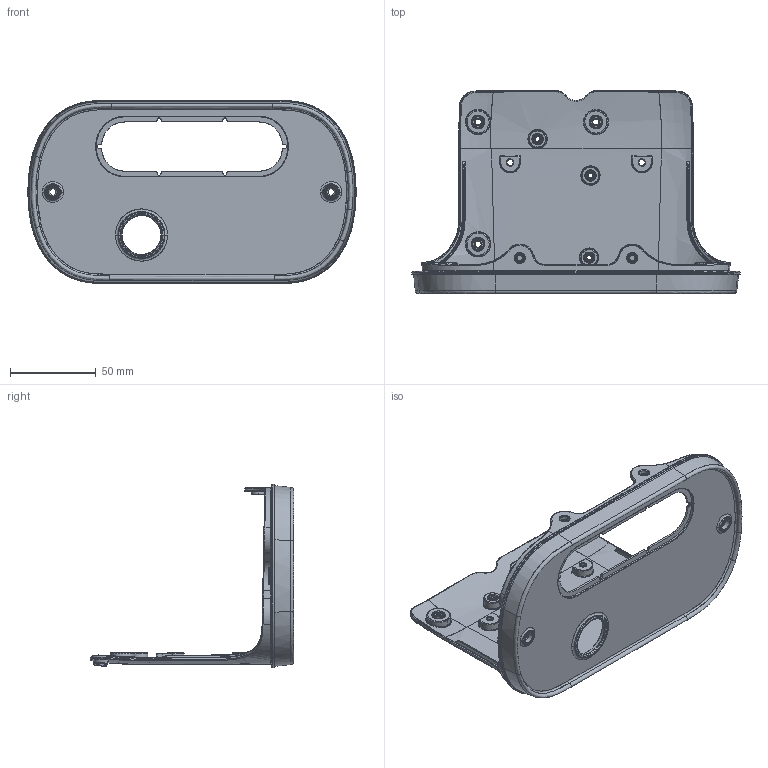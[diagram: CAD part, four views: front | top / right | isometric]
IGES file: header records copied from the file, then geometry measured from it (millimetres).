
Start section: Speaker 2 inch..SLDPRT - PrototypeComponentType Speaker 2 inch..SLDPRT - PrototypeComponentType Speaker 2 inch..SLDPRT - PrototypeComponentType Speaker 2 inch..SLDPRT - PrototypeComponentType 10 rocker-switch-KCD1..SLDPRT - PrototypeComponentType 10 rocker-switch-KCD1..SLDPRT - PrototypeComponentType 10 rocker-switch-KCD1..SLDPRT - PrototypeComponentType 10 rocker-switch-KCD1..SLDPRT - PrototypeCo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
Global section: file name: C:\Users\Victor\Desktop\FrontDefinido.igs; native system: Rhinoceros ( Feb 27 2019 ); preprocessor: Trout Lake IGES 012 Feb 27 2019; date: 241028.191518; units: millimetre
Bounding box: 190.99 x 118.46 x 106.8 mm (x, y, z)
Surface area: 79234.8 mm2 (no closed solid volume)
Topology: 0 solids, 0 shells, 739 faces, 8251 edges, 8251 vertices
Faces by surface type: bspline 739
